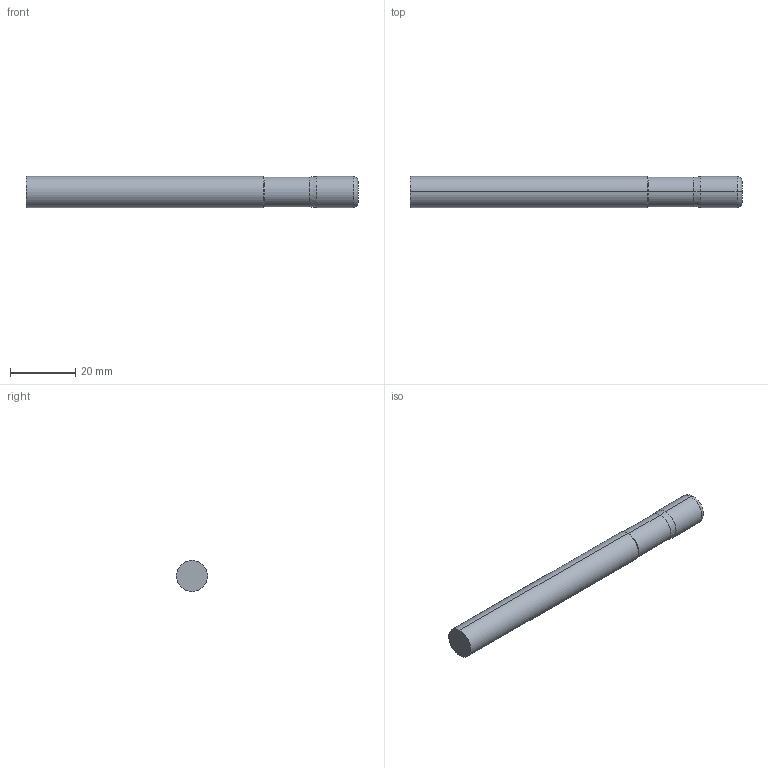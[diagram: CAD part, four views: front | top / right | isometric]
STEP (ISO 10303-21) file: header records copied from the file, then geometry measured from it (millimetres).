
FILE_DESCRIPTION (( 'STEP AP214' ), '1' );
FILE_NAME ('SSIRN70375-060.STEP', '2025-05-30T14:22:52', ( '' ), ( '' ), 'SwSTEP 2.0', 'SolidWorks 2023', '' );
FILE_SCHEMA (( 'AUTOMOTIVE_DESIGN' ));
Length unit declared in the file: inch
Products named in the file (3): SSI7 Cut Only_SSIRN70375-060; SSI7 Shank Only_SSIRN70375-060; SSIRN70375-060
Assembly tree (2 placements, depth 2):
  SSIRN70375-060
    SSI7 Cut Only_SSIRN70375-060
    SSI7 Shank Only_SSIRN70375-060
Bounding box: 101.6 x 9.53 x 9.53 mm (x, y, z)
Volume: 7114.2 mm3; surface area: 3283.1 mm2
Topology: 2 solids, 2 shells, 16 faces, 28 edges, 16 vertices
Faces by surface type: cylinder 6, plane 4, cone 4, torus 2
Entity records: 484 total; most frequent: DIRECTION 88, CARTESIAN_POINT 65, ORIENTED_EDGE 56, AXIS2_PLACEMENT_3D 39, EDGE_CURVE 28, CIRCLE 18, FACE_OUTER_BOUND 16, ADVANCED_FACE 16
